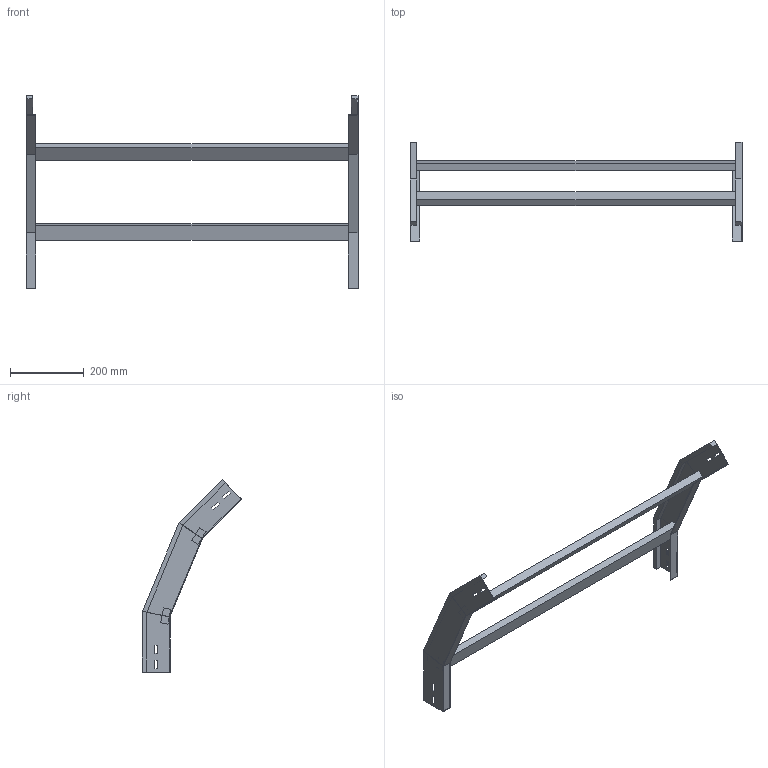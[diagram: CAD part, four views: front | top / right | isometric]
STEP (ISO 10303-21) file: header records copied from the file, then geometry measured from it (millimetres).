
FILE_DESCRIPTION (( 'STEP AP214' ), '1' );
FILE_NAME ('A2_34B3C900.step', '2025-02-21T14:55:16', ( '' ), ( '' ), 'SwSTEP 2.0', 'SolidWorks 2023', '' );
FILE_SCHEMA (( 'AUTOMOTIVE_DESIGN' ));
Length unit declared in the file: millimetre
Products named in the file (3): LONGH.DISCESA_45°_H75_R300; TRAVERSINO_900; A2_34B3C900
Assembly tree (5 placements, depth 2):
  A2_34B3C900
    LONGH.DISCESA_45°_H75_R300  x2
    TRAVERSINO_900  x3
Bounding box: 900 x 269.08 x 521.59 mm (x, y, z)
Volume: 2620448.1 mm3; surface area: 593082.9 mm2
Topology: 5 solids, 5 shells, 102 faces, 244 edges, 152 vertices
Faces by surface type: plane 102
Entity records: 1480 total; most frequent: CARTESIAN_POINT 244, ORIENTED_EDGE 232, DIRECTION 228, EDGE_CURVE 116, VECTOR 116, LINE 116, VERTEX_POINT 72, AXIS2_PLACEMENT_3D 56
